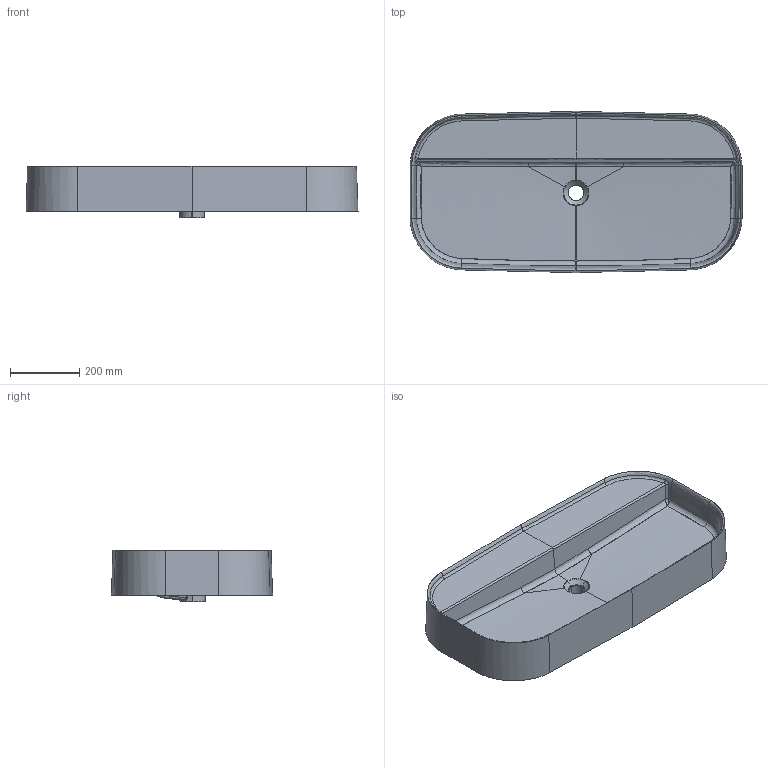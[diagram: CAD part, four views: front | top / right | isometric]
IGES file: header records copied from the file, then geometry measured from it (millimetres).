
Start section: START RECORD GO HERE.
Global section: file name: 7410_lavabo 95x45.igs; native system: DASSAULT SYSTEMES CATIA V5 R19 - www.3ds.com; preprocessor: CATIA Version 5 Release 19 SP 5 ; author: gioge; organization: LAPTOP-G94B6G74; date: 20200630.143856; units: millimetre
Bounding box: 955.67 x 464.08 x 148.39 mm (x, y, z)
Surface area: 1562866.5 mm2 (no closed solid volume)
Topology: 0 solids, 0 shells, 290 faces, 1326 edges, 1306 vertices
Faces by surface type: bspline 264, plane 26
